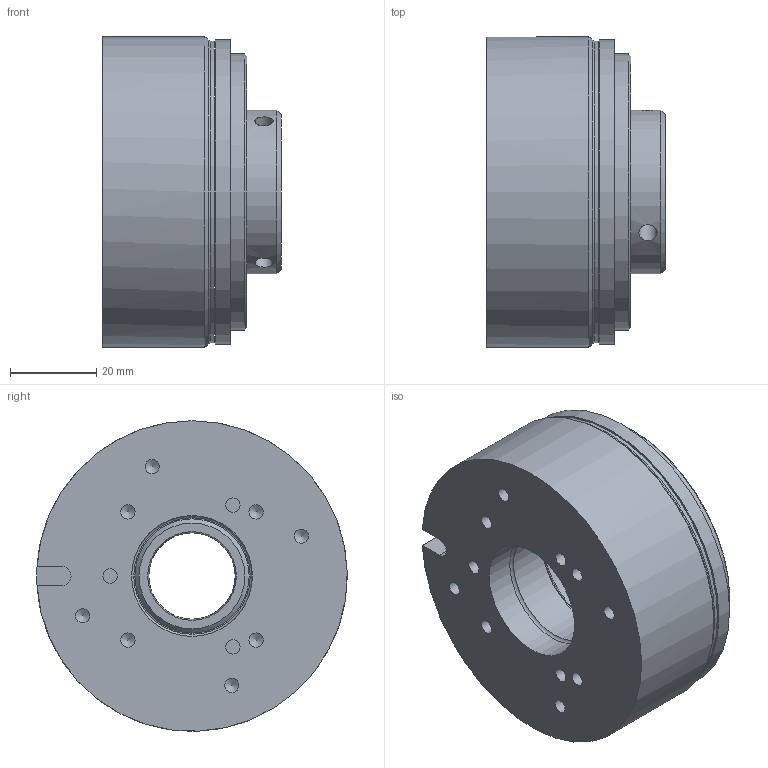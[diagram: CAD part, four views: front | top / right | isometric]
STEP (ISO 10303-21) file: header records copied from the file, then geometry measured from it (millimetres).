
FILE_DESCRIPTION (( 'STEP AP203' ), '1' );
FILE_NAME ('86_61107K00-0014_Idx_g.STEP', '2022-02-15T13:48:47', ( '' ), ( '' ), 'SwSTEP 2.0', 'SolidWorks 2018', '' );
FILE_SCHEMA (( 'CONFIG_CONTROL_DESIGN' ));
Length unit declared in the file: millimetre
Products named in the file (1): 86_61107K00-0014_Idx_g
Bounding box: 41.4 x 72 x 72 mm (x, y, z)
Volume: 116480.9 mm3; surface area: 26957.7 mm2
Topology: 2 solids, 2 shells, 58 faces, 120 edges, 73 vertices
Faces by surface type: cylinder 26, cone 15, plane 14, torus 3
Full cylindrical faces by diameter (mm): 3.3 x11, 4.2 x3, 20 x1, 26.5 x1, 27 x1, 28 x1, 29.5 x1, 38 x1, 55.5 x1, 64 x1, 70 x1, 70.5 x1, 72 x1
Entity records: 1641 total; most frequent: CARTESIAN_POINT 515, DIRECTION 234, ORIENTED_EDGE 136, EDGE_LOOP 118, AXIS2_PLACEMENT_3D 113, FACE_OUTER_BOUND 86, EDGE_CURVE 68, VERTEX_POINT 64
